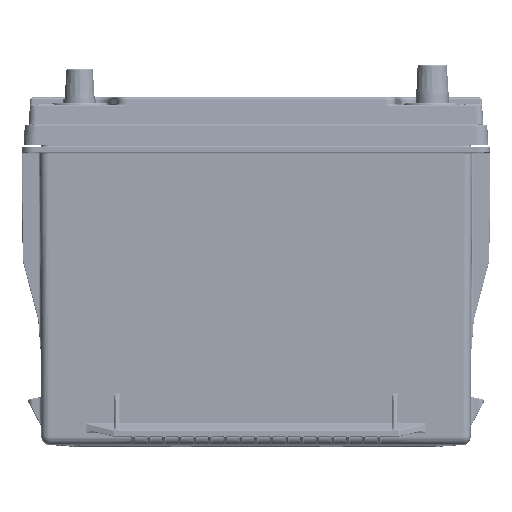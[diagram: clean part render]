
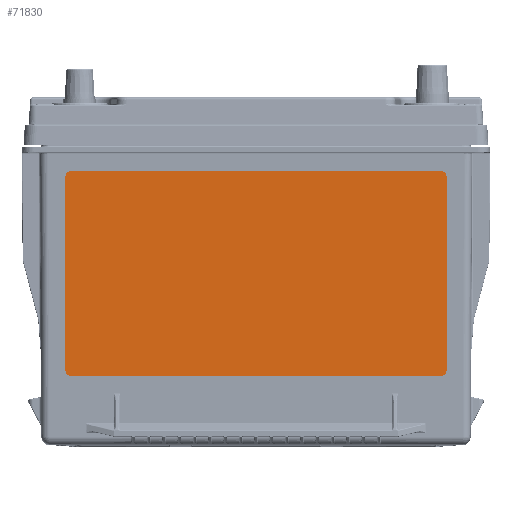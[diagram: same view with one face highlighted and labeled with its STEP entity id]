
A CAD part, top view. The second image highlights one B-rep face of the part: STEP entity #71830.
In plain terms, the highlighted planar face has unit normal (0, -0.003, 1).
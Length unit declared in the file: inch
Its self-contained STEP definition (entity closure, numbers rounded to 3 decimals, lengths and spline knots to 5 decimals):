
#5506 = AXIS2_PLACEMENT_3D ( 'NONE', #226081, #294776, #187213 ) ;
#5960 = DIRECTION ( 'NONE',  ( -1., 0., 0. ) ) ;
#8204 = CIRCLE ( 'NONE', #279024, 0.125 ) ;
#12709 = DIRECTION ( 'NONE',  ( 0., -0.003, 1. ) ) ;
#17101 = VERTEX_POINT ( 'NONE', #58701 ) ;
#34968 = CARTESIAN_POINT ( 'NONE',  ( 4.3, -0.93311, 3.17901 ) ) ;
#37287 = EDGE_CURVE ( 'NONE', #283013, #382645, #199637, .T. ) ;
#40352 = ORIENTED_EDGE ( 'NONE', *, *, #217293, .T. ) ;
#42905 = VERTEX_POINT ( 'NONE', #48115 ) ;
#48115 = CARTESIAN_POINT ( 'NONE',  ( -4.425, -1.05811, 3.17869 ) ) ;
#48868 = LINE ( 'NONE', #119870, #293823 ) ;
#53982 = LINE ( 'NONE', #58545, #243767 ) ;
#55325 = EDGE_CURVE ( 'NONE', #289317, #283013, #343265, .T. ) ;
#58545 = CARTESIAN_POINT ( 'NONE',  ( -4.425, -1.05811, 3.17869 ) ) ;
#58701 = CARTESIAN_POINT ( 'NONE',  ( -4.3, -0.93311, 3.17901 ) ) ;
#58889 = VECTOR ( 'NONE', #414490, 39.37008 ) ;
#66640 = DIRECTION ( 'NONE',  ( 1., 0., 0. ) ) ;
#67735 = ORIENTED_EDGE ( 'NONE', *, *, #380719, .T. ) ;
#71830 = ADVANCED_FACE ( 'NONE', ( #166949 ), #304368, .F. ) ;
#79280 = CARTESIAN_POINT ( 'NONE',  ( -4.3, -5.55809, 3.16691 ) ) ;
#81513 = DIRECTION ( 'NONE',  ( 0., -0.003, 1. ) ) ;
#95678 = AXIS2_PLACEMENT_3D ( 'NONE', #125756, #306624, #441834 ) ;
#119870 = CARTESIAN_POINT ( 'NONE',  ( 4.425, -1.05811, 3.17869 ) ) ;
#125756 = CARTESIAN_POINT ( 'NONE',  ( 4.3, -1.05811, 3.17869 ) ) ;
#130877 = VERTEX_POINT ( 'NONE', #447239 ) ;
#135471 = ORIENTED_EDGE ( 'NONE', *, *, #265597, .T. ) ;
#149835 = VECTOR ( 'NONE', #66640, 39.37008 ) ;
#152920 = AXIS2_PLACEMENT_3D ( 'NONE', #79280, #81513, #228035 ) ;
#166949 = FACE_OUTER_BOUND ( 'NONE', #213685, .T. ) ;
#187213 = DIRECTION ( 'NONE',  ( -1., 0., 0. ) ) ;
#188013 = DIRECTION ( 'NONE',  ( -1., 0., 0. ) ) ;
#199637 = LINE ( 'NONE', #240741, #149835 ) ;
#213685 = EDGE_LOOP ( 'NONE', ( #40352, #220827, #344125, #67735, #287266, #247127, #409690, #135471 ) ) ;
#217293 = EDGE_CURVE ( 'NONE', #130877, #448292, #385812, .T. ) ;
#220827 = ORIENTED_EDGE ( 'NONE', *, *, #396635, .T. ) ;
#226081 = CARTESIAN_POINT ( 'NONE',  ( 4.3, -1.05811, 3.17869 ) ) ;
#228035 = DIRECTION ( 'NONE',  ( -1., 0., 0. ) ) ;
#240741 = CARTESIAN_POINT ( 'NONE',  ( -4.3, -5.68309, 3.16658 ) ) ;
#241916 = CARTESIAN_POINT ( 'NONE',  ( -4.3, -5.68309, 3.16658 ) ) ;
#243767 = VECTOR ( 'NONE', #267003, 39.37008 ) ;
#247127 = ORIENTED_EDGE ( 'NONE', *, *, #37287, .T. ) ;
#250339 = AXIS2_PLACEMENT_3D ( 'NONE', #325424, #279819, #188013 ) ;
#260061 = CARTESIAN_POINT ( 'NONE',  ( 4.3, -5.55809, 3.16691 ) ) ;
#265597 = EDGE_CURVE ( 'NONE', #294695, #130877, #48868, .T. ) ;
#265699 = LINE ( 'NONE', #442074, #58889 ) ;
#266363 = EDGE_CURVE ( 'NONE', #17101, #42905, #338381, .T. ) ;
#267003 = DIRECTION ( 'NONE',  ( 0., -1., -0.003 ) ) ;
#277319 = CARTESIAN_POINT ( 'NONE',  ( -4.425, -5.55809, 3.16691 ) ) ;
#278684 = CARTESIAN_POINT ( 'NONE',  ( 4.3, -5.68309, 3.16658 ) ) ;
#279024 = AXIS2_PLACEMENT_3D ( 'NONE', #260061, #12709, #5960 ) ;
#279819 = DIRECTION ( 'NONE',  ( 0., -0.003, 1. ) ) ;
#283013 = VERTEX_POINT ( 'NONE', #241916 ) ;
#287266 = ORIENTED_EDGE ( 'NONE', *, *, #55325, .T. ) ;
#289317 = VERTEX_POINT ( 'NONE', #277319 ) ;
#289474 = DIRECTION ( 'NONE',  ( 0., 1., 0.003 ) ) ;
#293823 = VECTOR ( 'NONE', #289474, 39.37008 ) ;
#294695 = VERTEX_POINT ( 'NONE', #327156 ) ;
#294776 = DIRECTION ( 'NONE',  ( 0., -0.003, 1. ) ) ;
#304368 = PLANE ( 'NONE',  #95678 ) ;
#306624 = DIRECTION ( 'NONE',  ( 0., 0.003, -1. ) ) ;
#325424 = CARTESIAN_POINT ( 'NONE',  ( -4.3, -1.05811, 3.17869 ) ) ;
#327156 = CARTESIAN_POINT ( 'NONE',  ( 4.425, -5.55809, 3.16691 ) ) ;
#338381 = CIRCLE ( 'NONE', #250339, 0.125 ) ;
#343265 = CIRCLE ( 'NONE', #152920, 0.125 ) ;
#344125 = ORIENTED_EDGE ( 'NONE', *, *, #266363, .T. ) ;
#366134 = EDGE_CURVE ( 'NONE', #382645, #294695, #8204, .T. ) ;
#380719 = EDGE_CURVE ( 'NONE', #42905, #289317, #53982, .T. ) ;
#382645 = VERTEX_POINT ( 'NONE', #278684 ) ;
#385812 = CIRCLE ( 'NONE', #5506, 0.125 ) ;
#396635 = EDGE_CURVE ( 'NONE', #448292, #17101, #265699, .T. ) ;
#409690 = ORIENTED_EDGE ( 'NONE', *, *, #366134, .T. ) ;
#414490 = DIRECTION ( 'NONE',  ( -1., 0., 0. ) ) ;
#441834 = DIRECTION ( 'NONE',  ( -1., 0., 0. ) ) ;
#442074 = CARTESIAN_POINT ( 'NONE',  ( -4.3, -0.93311, 3.17901 ) ) ;
#447239 = CARTESIAN_POINT ( 'NONE',  ( 4.425, -1.05811, 3.17869 ) ) ;
#448292 = VERTEX_POINT ( 'NONE', #34968 ) ;
